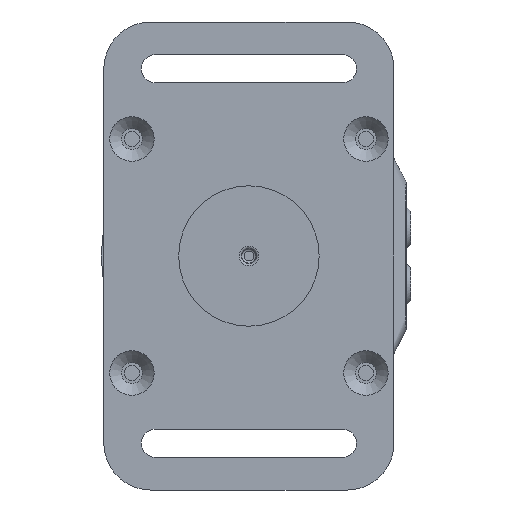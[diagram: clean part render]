
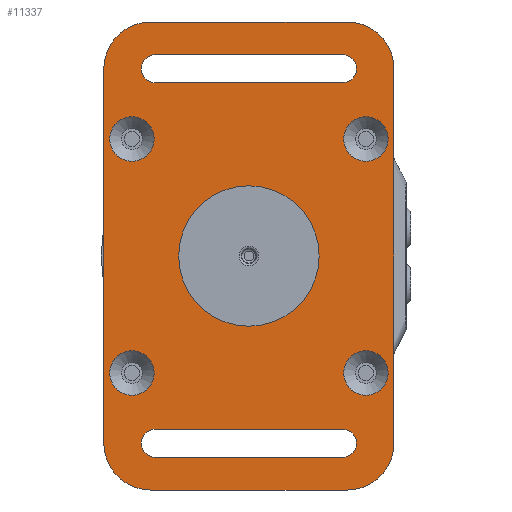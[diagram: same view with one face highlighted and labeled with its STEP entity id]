
A CAD part, front view. The second image highlights one B-rep face of the part: STEP entity #11337.
In plain terms, the highlighted planar face has unit normal (0, -1, 0).
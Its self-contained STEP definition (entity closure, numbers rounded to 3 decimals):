
#11337=ADVANCED_FACE('',(#13661,#13662,#13663,#13664,#13665,#13666,#13667,
#13668),#12138,.T.);
#12138=PLANE('',#40479);
#13224=CIRCLE('',#40465,4.75);
#13225=CIRCLE('',#40467,10.);
#13226=CIRCLE('',#40468,10.);
#13227=CIRCLE('',#40469,10.);
#13228=CIRCLE('',#40470,10.);
#13229=CIRCLE('',#40471,3.);
#13230=CIRCLE('',#40472,3.);
#13231=CIRCLE('',#40473,3.);
#13232=CIRCLE('',#40474,3.);
#13233=CIRCLE('',#40475,4.75);
#13234=CIRCLE('',#40476,4.75);
#13235=CIRCLE('',#40477,4.75);
#13236=CIRCLE('',#40478,15.);
#13661=FACE_BOUND('',#15871,.T.);
#13662=FACE_BOUND('',#15872,.T.);
#13663=FACE_BOUND('',#15873,.T.);
#13664=FACE_BOUND('',#15874,.T.);
#13665=FACE_BOUND('',#15875,.T.);
#13666=FACE_BOUND('',#15876,.T.);
#13667=FACE_BOUND('',#15877,.T.);
#13668=FACE_BOUND('',#15878,.T.);
#15871=EDGE_LOOP('',(#25194,#25195,#25196,#25197,#25198,#25199,#25200,#25201));
#15872=EDGE_LOOP('',(#25202,#25203,#25204,#25205));
#15873=EDGE_LOOP('',(#25206,#25207,#25208,#25209));
#15874=EDGE_LOOP('',(#25210));
#15875=EDGE_LOOP('',(#25211));
#15876=EDGE_LOOP('',(#25212));
#15877=EDGE_LOOP('',(#25213));
#15878=EDGE_LOOP('',(#25214));
#25194=ORIENTED_EDGE('',*,*,#32900,.T.);
#25195=ORIENTED_EDGE('',*,*,#32901,.T.);
#25196=ORIENTED_EDGE('',*,*,#32902,.T.);
#25197=ORIENTED_EDGE('',*,*,#32903,.T.);
#25198=ORIENTED_EDGE('',*,*,#32904,.T.);
#25199=ORIENTED_EDGE('',*,*,#32905,.T.);
#25200=ORIENTED_EDGE('',*,*,#32906,.T.);
#25201=ORIENTED_EDGE('',*,*,#32907,.T.);
#25202=ORIENTED_EDGE('',*,*,#32908,.F.);
#25203=ORIENTED_EDGE('',*,*,#32909,.F.);
#25204=ORIENTED_EDGE('',*,*,#32910,.F.);
#25205=ORIENTED_EDGE('',*,*,#32911,.F.);
#25206=ORIENTED_EDGE('',*,*,#32912,.F.);
#25207=ORIENTED_EDGE('',*,*,#32913,.F.);
#25208=ORIENTED_EDGE('',*,*,#32914,.F.);
#25209=ORIENTED_EDGE('',*,*,#32915,.F.);
#25210=ORIENTED_EDGE('',*,*,#32899,.T.);
#25211=ORIENTED_EDGE('',*,*,#32916,.T.);
#25212=ORIENTED_EDGE('',*,*,#32917,.T.);
#25213=ORIENTED_EDGE('',*,*,#32918,.T.);
#25214=ORIENTED_EDGE('',*,*,#32919,.F.);
#28223=VERTEX_POINT('',#73286);
#28224=VERTEX_POINT('',#73289);
#28225=VERTEX_POINT('',#73290);
#28226=VERTEX_POINT('',#73292);
#28227=VERTEX_POINT('',#73294);
#28228=VERTEX_POINT('',#73296);
#28229=VERTEX_POINT('',#73298);
#28230=VERTEX_POINT('',#73300);
#28231=VERTEX_POINT('',#73302);
#28232=VERTEX_POINT('',#73305);
#28233=VERTEX_POINT('',#73306);
#28234=VERTEX_POINT('',#73308);
#28235=VERTEX_POINT('',#73310);
#28236=VERTEX_POINT('',#73313);
#28237=VERTEX_POINT('',#73314);
#28238=VERTEX_POINT('',#73316);
#28239=VERTEX_POINT('',#73318);
#28240=VERTEX_POINT('',#73321);
#28241=VERTEX_POINT('',#73323);
#28242=VERTEX_POINT('',#73325);
#28243=VERTEX_POINT('',#73327);
#32899=EDGE_CURVE('',#28223,#28223,#13224,.T.);
#32900=EDGE_CURVE('',#28224,#28225,#34874,.T.);
#32901=EDGE_CURVE('',#28225,#28226,#13225,.T.);
#32902=EDGE_CURVE('',#28226,#28227,#34875,.T.);
#32903=EDGE_CURVE('',#28227,#28228,#13226,.T.);
#32904=EDGE_CURVE('',#28228,#28229,#34876,.T.);
#32905=EDGE_CURVE('',#28229,#28230,#13227,.T.);
#32906=EDGE_CURVE('',#28230,#28231,#34877,.T.);
#32907=EDGE_CURVE('',#28231,#28224,#13228,.T.);
#32908=EDGE_CURVE('',#28232,#28233,#13229,.T.);
#32909=EDGE_CURVE('',#28234,#28232,#34878,.T.);
#32910=EDGE_CURVE('',#28235,#28234,#13230,.T.);
#32911=EDGE_CURVE('',#28233,#28235,#34879,.T.);
#32912=EDGE_CURVE('',#28236,#28237,#13231,.T.);
#32913=EDGE_CURVE('',#28238,#28236,#34880,.T.);
#32914=EDGE_CURVE('',#28239,#28238,#13232,.T.);
#32915=EDGE_CURVE('',#28237,#28239,#34881,.T.);
#32916=EDGE_CURVE('',#28240,#28240,#13233,.T.);
#32917=EDGE_CURVE('',#28241,#28241,#13234,.T.);
#32918=EDGE_CURVE('',#28242,#28242,#13235,.T.);
#32919=EDGE_CURVE('',#28243,#28243,#13236,.T.);
#34874=LINE('',#73288,#36928);
#34875=LINE('',#73293,#36929);
#34876=LINE('',#73297,#36930);
#34877=LINE('',#73301,#36931);
#34878=LINE('',#73307,#36932);
#34879=LINE('',#73311,#36933);
#34880=LINE('',#73315,#36934);
#34881=LINE('',#73319,#36935);
#36928=VECTOR('',#48014,1.);
#36929=VECTOR('',#48017,1.);
#36930=VECTOR('',#48020,1.);
#36931=VECTOR('',#48023,1.);
#36932=VECTOR('',#48028,1.);
#36933=VECTOR('',#48031,1.);
#36934=VECTOR('',#48034,1.);
#36935=VECTOR('',#48037,1.);
#40465=AXIS2_PLACEMENT_3D('',#73285,#48010,#48011);
#40467=AXIS2_PLACEMENT_3D('',#73291,#48015,#48016);
#40468=AXIS2_PLACEMENT_3D('',#73295,#48018,#48019);
#40469=AXIS2_PLACEMENT_3D('',#73299,#48021,#48022);
#40470=AXIS2_PLACEMENT_3D('',#73303,#48024,#48025);
#40471=AXIS2_PLACEMENT_3D('',#73304,#48026,#48027);
#40472=AXIS2_PLACEMENT_3D('',#73309,#48029,#48030);
#40473=AXIS2_PLACEMENT_3D('',#73312,#48032,#48033);
#40474=AXIS2_PLACEMENT_3D('',#73317,#48035,#48036);
#40475=AXIS2_PLACEMENT_3D('',#73320,#48038,#48039);
#40476=AXIS2_PLACEMENT_3D('',#73322,#48040,#48041);
#40477=AXIS2_PLACEMENT_3D('',#73324,#48042,#48043);
#40478=AXIS2_PLACEMENT_3D('',#73326,#48044,#48045);
#40479=AXIS2_PLACEMENT_3D('',#73328,#48046,#48047);
#48010=DIRECTION('',(0.,1.,0.));
#48011=DIRECTION('',(0.,0.,1.));
#48014=DIRECTION('',(0.,0.,1.));
#48015=DIRECTION('',(0.,-1.,0.));
#48016=DIRECTION('',(1.,0.,0.));
#48017=DIRECTION('',(-1.,0.,0.));
#48018=DIRECTION('',(0.,-1.,0.));
#48019=DIRECTION('',(0.,0.,1.));
#48020=DIRECTION('',(0.,0.,-1.));
#48021=DIRECTION('',(0.,-1.,0.));
#48022=DIRECTION('',(-1.,0.,0.));
#48023=DIRECTION('',(1.,0.,0.));
#48024=DIRECTION('',(0.,-1.,0.));
#48025=DIRECTION('',(0.,0.,-1.));
#48026=DIRECTION('',(0.,-1.,0.));
#48027=DIRECTION('',(0.,0.,-1.));
#48028=DIRECTION('',(1.,0.,0.));
#48029=DIRECTION('',(0.,-1.,0.));
#48030=DIRECTION('',(0.,0.,1.));
#48031=DIRECTION('',(-1.,0.,0.));
#48032=DIRECTION('',(0.,-1.,0.));
#48033=DIRECTION('',(0.,0.,-1.));
#48034=DIRECTION('',(1.,0.,0.));
#48035=DIRECTION('',(0.,-1.,0.));
#48036=DIRECTION('',(0.,0.,1.));
#48037=DIRECTION('',(-1.,0.,0.));
#48038=DIRECTION('',(0.,1.,0.));
#48039=DIRECTION('',(0.,0.,1.));
#48040=DIRECTION('',(0.,1.,0.));
#48041=DIRECTION('',(0.,0.,1.));
#48042=DIRECTION('',(0.,1.,0.));
#48043=DIRECTION('',(0.,0.,1.));
#48044=DIRECTION('',(0.,-1.,0.));
#48045=DIRECTION('',(0.,0.,1.));
#48046=DIRECTION('',(0.,-1.,0.));
#48047=DIRECTION('',(0.,0.,-1.));
#73285=CARTESIAN_POINT('',(-25.,-1.5,51.));
#73286=CARTESIAN_POINT('',(-25.,-1.5,55.75));
#73288=CARTESIAN_POINT('',(-19.,-1.5,-14.));
#73289=CARTESIAN_POINT('',(-19.,-1.5,-14.));
#73290=CARTESIAN_POINT('',(-19.,-1.5,66.));
#73291=CARTESIAN_POINT('',(-29.,-1.5,66.));
#73292=CARTESIAN_POINT('',(-29.,-1.5,76.));
#73293=CARTESIAN_POINT('',(-29.,-1.5,76.));
#73294=CARTESIAN_POINT('',(-71.,-1.5,76.));
#73295=CARTESIAN_POINT('',(-71.,-1.5,66.));
#73296=CARTESIAN_POINT('',(-81.,-1.5,66.));
#73297=CARTESIAN_POINT('',(-81.,-1.5,66.));
#73298=CARTESIAN_POINT('',(-81.,-1.5,-14.));
#73299=CARTESIAN_POINT('',(-71.,-1.5,-14.));
#73300=CARTESIAN_POINT('',(-71.,-1.5,-24.));
#73301=CARTESIAN_POINT('',(-71.,-1.5,-24.));
#73302=CARTESIAN_POINT('',(-29.,-1.5,-24.));
#73303=CARTESIAN_POINT('',(-29.,-1.5,-14.));
#73304=CARTESIAN_POINT('',(-30.,-1.5,66.));
#73305=CARTESIAN_POINT('',(-30.,-1.5,63.));
#73306=CARTESIAN_POINT('',(-30.,-1.5,69.));
#73307=CARTESIAN_POINT('',(-70.,-1.5,63.));
#73308=CARTESIAN_POINT('',(-70.,-1.5,63.));
#73309=CARTESIAN_POINT('',(-70.,-1.5,66.));
#73310=CARTESIAN_POINT('',(-70.,-1.5,69.));
#73311=CARTESIAN_POINT('',(-30.,-1.5,69.));
#73312=CARTESIAN_POINT('',(-30.,-1.5,-14.));
#73313=CARTESIAN_POINT('',(-30.,-1.5,-17.));
#73314=CARTESIAN_POINT('',(-30.,-1.5,-11.));
#73315=CARTESIAN_POINT('',(-70.,-1.5,-17.));
#73316=CARTESIAN_POINT('',(-70.,-1.5,-17.));
#73317=CARTESIAN_POINT('',(-70.,-1.5,-14.));
#73318=CARTESIAN_POINT('',(-70.,-1.5,-11.));
#73319=CARTESIAN_POINT('',(-30.,-1.5,-11.));
#73320=CARTESIAN_POINT('',(-25.,-1.5,1.));
#73321=CARTESIAN_POINT('',(-25.,-1.5,5.75));
#73322=CARTESIAN_POINT('',(-75.,-1.5,51.));
#73323=CARTESIAN_POINT('',(-75.,-1.5,55.75));
#73324=CARTESIAN_POINT('',(-75.,-1.5,1.));
#73325=CARTESIAN_POINT('',(-75.,-1.5,5.75));
#73326=CARTESIAN_POINT('',(-50.,-1.5,26.));
#73327=CARTESIAN_POINT('',(-50.,-1.5,41.));
#73328=CARTESIAN_POINT('',(-50.,-1.5,26.));
